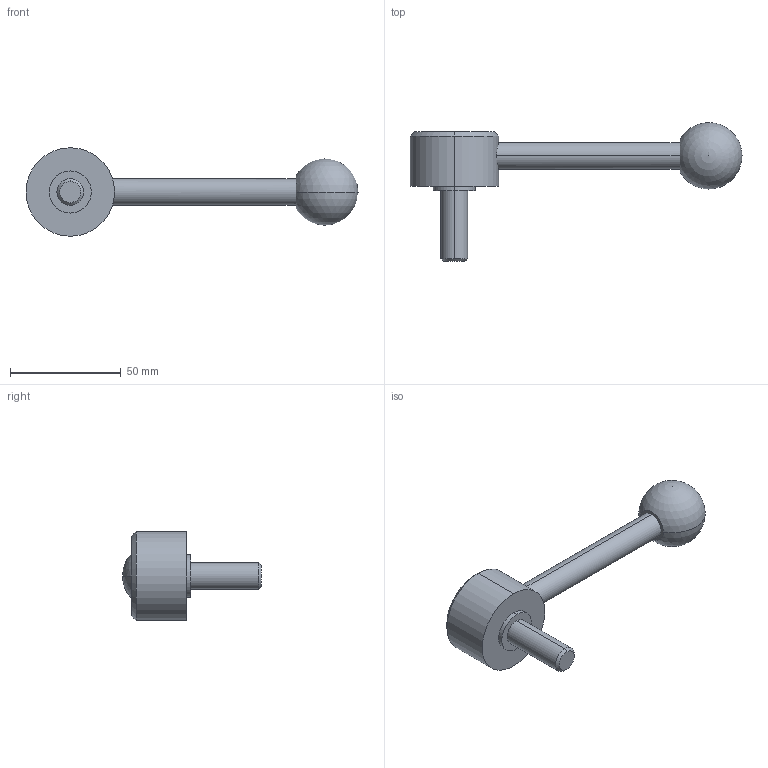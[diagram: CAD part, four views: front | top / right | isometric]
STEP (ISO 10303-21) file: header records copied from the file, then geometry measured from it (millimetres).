
FILE_DESCRIPTION (( 'STEP AP214' ), '1' );
FILE_NAME ('125.5-40-M12-32-D.step', '2020-02-18T11:35:53', ( '' ), ( '' ), 'SwSTEP 2.0', 'SolidWorks 2019', '' );
FILE_SCHEMA (( 'AUTOMOTIVE_DESIGN' ));
Length unit declared in the file: millimetre
Products named in the file (1): 125.5-40-M12-32-D
Bounding box: 150 x 62.7 x 40 mm (x, y, z)
Volume: 58081.6 mm3; surface area: 12446.4 mm2
Topology: 1 solids, 1 shells, 22 faces, 47 edges, 30 vertices
Faces by surface type: cylinder 10, plane 6, cone 4, sphere 2
Entity records: 748 total; most frequent: CARTESIAN_POINT 176, DIRECTION 112, ORIENTED_EDGE 84, AXIS2_PLACEMENT_3D 49, EDGE_CURVE 42, VERTEX_POINT 27, EDGE_LOOP 27, CIRCLE 26
